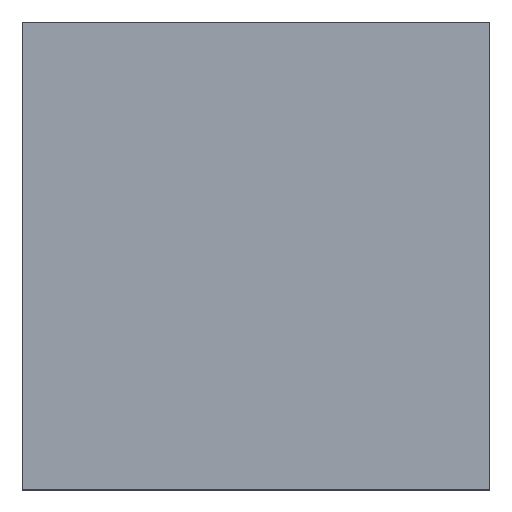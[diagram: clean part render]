
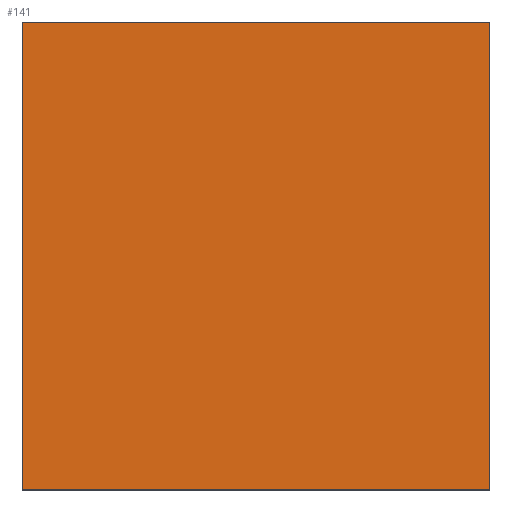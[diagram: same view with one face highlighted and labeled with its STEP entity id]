
A CAD part, top view. The second image highlights one B-rep face of the part: STEP entity #141.
In plain terms, the highlighted free-form (B-spline) face has degree [1, 1] with [2, 2] control points.
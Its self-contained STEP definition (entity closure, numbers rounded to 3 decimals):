
#24 = VERTEX_POINT('',#25);
#25 = CARTESIAN_POINT('',(-25.,-25.,14.));
#38 = VERTEX_POINT('',#39);
#39 = CARTESIAN_POINT('',(-25.,25.,14.));
#44 = EDGE_CURVE('',#24,#38,#45,.T.);
#45 = B_SPLINE_CURVE_WITH_KNOTS('',1,(#46,#47),.UNSPECIFIED.,.F.,.F.,(2,
    2),(0.,50.),.PIECEWISE_BEZIER_KNOTS.);
#46 = CARTESIAN_POINT('',(-25.,-25.,14.));
#47 = CARTESIAN_POINT('',(-25.,25.,14.));
#60 = VERTEX_POINT('',#61);
#61 = CARTESIAN_POINT('',(25.,-25.,14.));
#74 = VERTEX_POINT('',#75);
#75 = CARTESIAN_POINT('',(25.,25.,14.));
#80 = EDGE_CURVE('',#60,#74,#81,.T.);
#81 = B_SPLINE_CURVE_WITH_KNOTS('',1,(#82,#83),.UNSPECIFIED.,.F.,.F.,(2,
    2),(0.,50.),.PIECEWISE_BEZIER_KNOTS.);
#82 = CARTESIAN_POINT('',(25.,-25.,14.));
#83 = CARTESIAN_POINT('',(25.,25.,14.));
#99 = EDGE_CURVE('',#24,#60,#100,.T.);
#100 = B_SPLINE_CURVE_WITH_KNOTS('',1,(#101,#102),.UNSPECIFIED.,.F.,.F.,
  (2,2),(0.,50.),.PIECEWISE_BEZIER_KNOTS.);
#101 = CARTESIAN_POINT('',(-25.,-25.,14.));
#102 = CARTESIAN_POINT('',(25.,-25.,14.));
#119 = EDGE_CURVE('',#38,#74,#120,.T.);
#120 = B_SPLINE_CURVE_WITH_KNOTS('',1,(#121,#122),.UNSPECIFIED.,.F.,.F.,
  (2,2),(0.,50.),.PIECEWISE_BEZIER_KNOTS.);
#121 = CARTESIAN_POINT('',(-25.,25.,14.));
#122 = CARTESIAN_POINT('',(25.,25.,14.));
#141 = ADVANCED_FACE('',(#142),#148,.T.);
#142 = FACE_BOUND('',#143,.T.);
#143 = EDGE_LOOP('',(#144,#145,#146,#147));
#144 = ORIENTED_EDGE('',*,*,#44,.F.);
#145 = ORIENTED_EDGE('',*,*,#99,.T.);
#146 = ORIENTED_EDGE('',*,*,#80,.T.);
#147 = ORIENTED_EDGE('',*,*,#119,.F.);
#148 = B_SPLINE_SURFACE_WITH_KNOTS('',1,1,(
    (#149,#150)
    ,(#151,#152
    )),.UNSPECIFIED.,.F.,.F.,.F.,(2,2),(2,2),(0.,50.),(0.,50.),
  .PIECEWISE_BEZIER_KNOTS.);
#149 = CARTESIAN_POINT('',(-25.,-25.,14.));
#150 = CARTESIAN_POINT('',(-25.,25.,14.));
#151 = CARTESIAN_POINT('',(25.,-25.,14.));
#152 = CARTESIAN_POINT('',(25.,25.,14.));
